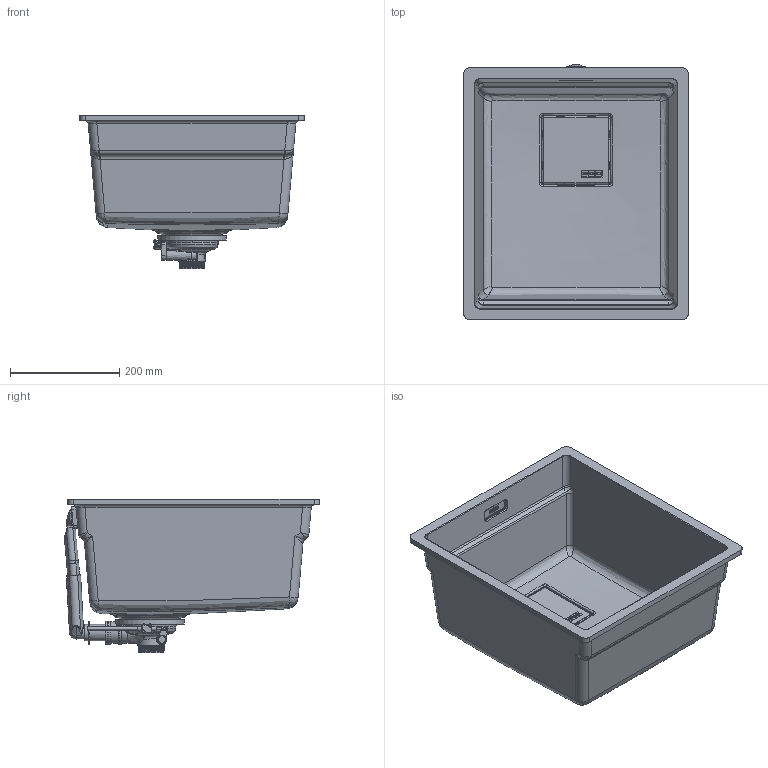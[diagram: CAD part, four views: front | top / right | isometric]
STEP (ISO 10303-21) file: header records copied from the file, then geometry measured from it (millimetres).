
FILE_DESCRIPTION(/* description */ (''),/* implementation_level */ '2;1');
FILE_NAME(/* name */ '3D001_Sinks_Kubus-2_KNG-110-37',/* time_stamp */ '2024-07-04T15:21:12+02:00',/* author */ (''),/* organization */ (''),/* preprocessor_version */ 'ST-DEVELOPER v19.2',/* originating_system */ 'Rhino 8.7',/* authorisation */ '');
FILE_SCHEMA (('CONFIG_CONTROL_DESIGN'));
Products named in the file (5): Document; LOGO_SOLOBORDO_COPRISCARICO; 20127762_tpm_000; Blocco 13; Blocco 14
Bounding box: 410 x 466.37 x 280 mm (x, y, z)
Volume: 3414958 mm3; surface area: 1030929.7 mm2
Topology: 15 solids, 23 shells, 2606 faces, 7145 edges, 4661 vertices
Faces by surface type: plane 1658, cylinder 506, bspline 442
Full cylindrical faces by diameter (mm): 5 x3, 6 x1, 7.5 x3, 8 x1, 14 x2, 23.8 x1, 24 x1, 30 x3, 36 x1, 39 x1, 42 x3, 45 x1, 48 x1, 83.403 x1, 84 x1, 90 x1, 126 x1
Entity records: 111465 total; most frequent: CARTESIAN_POINT 56264, ORIENTED_EDGE 14081, EDGE_CURVE 7125, DIRECTION 5892, B_SPLINE_CURVE_WITH_KNOTS 4795, VERTEX_POINT 4661, AXIS2_PLACEMENT_3D 4028, EDGE_LOOP 2750
